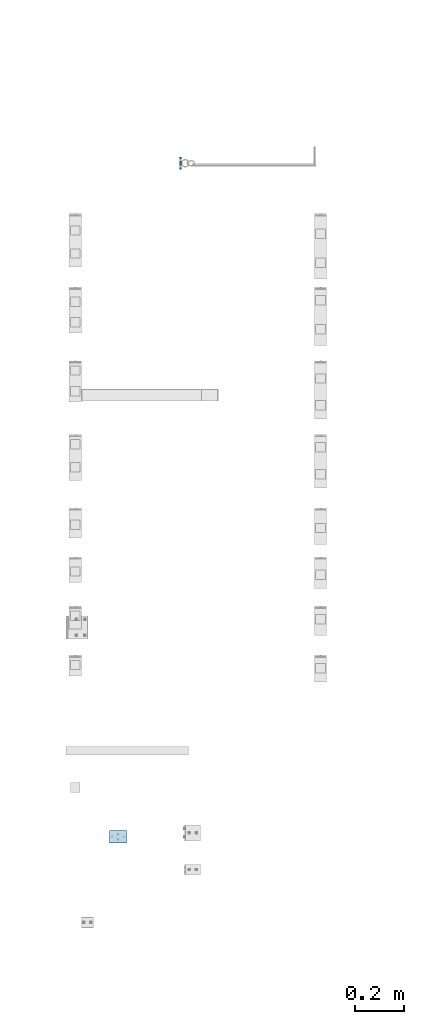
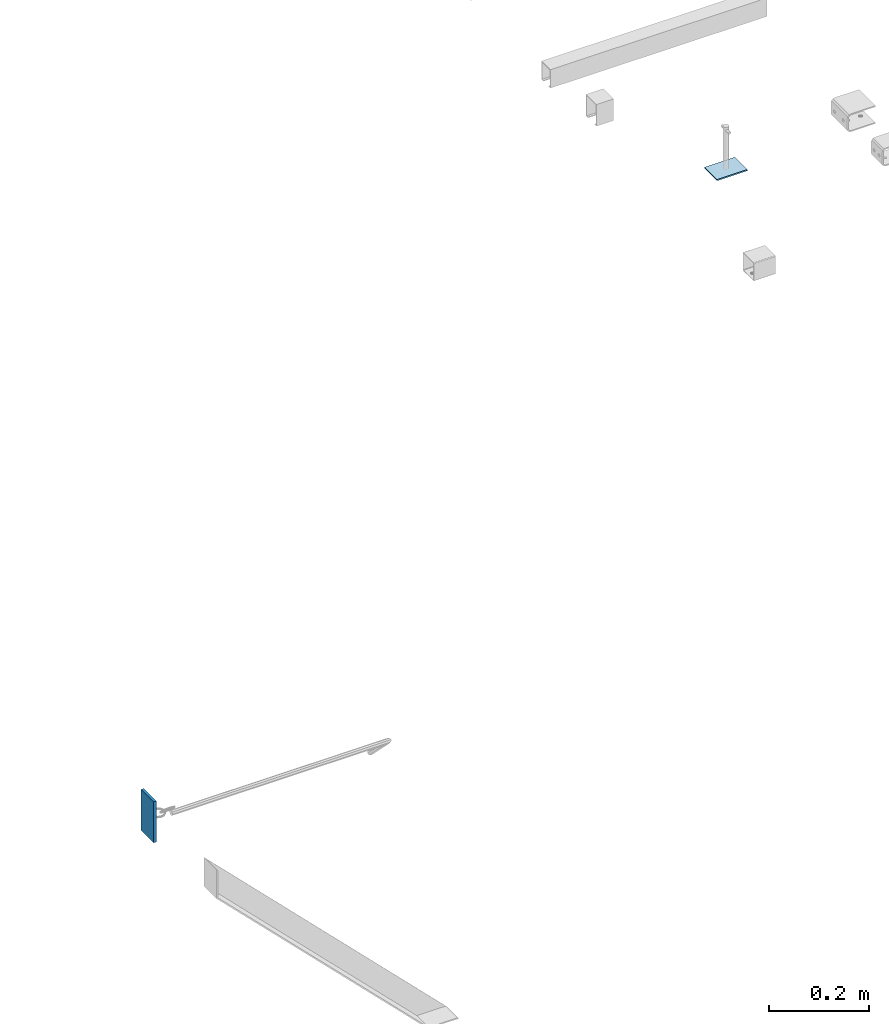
# One storey, part 12 of 91: 2 plates, 2 elements without a shape of their own.
"""IFC2X3 building model written with IfcOpenShell, lengths in millimetres."""

from ifc_helpers import new_model, si_unit, frame, origin_with_axes, place, context, subcontext, project, spatial, polyline, outline, extrude, material, type_object, element, aggregate, save


model = new_model("IFC2X3")

# Units and contexts
model_context = context("Model", 3, precision=1e-05, world=origin_with_axes())
body_context = subcontext(model_context, "Body", "Model", "MODEL_VIEW")
ifc_project = project(units=[si_unit("LENGTHUNIT", "METRE", prefix="MILLI"), si_unit("AREAUNIT", "SQUARE_METRE"), si_unit("VOLUMEUNIT", "CUBIC_METRE"), si_unit("MASSUNIT", "GRAM", prefix="KILO"), si_unit("TIMEUNIT", "SECOND"), si_unit("PLANEANGLEUNIT", "RADIAN"), si_unit("SOLIDANGLEUNIT", "STERADIAN"), si_unit("THERMODYNAMICTEMPERATUREUNIT", "DEGREE_CELSIUS"), si_unit("LUMINOUSINTENSITYUNIT", "LUMEN")], contexts=[model_context])

# Site, building, storey
site_placement = place(None, origin_with_axes())
site = spatial("IfcSite", under=ifc_project, at=site_placement, Name="Undefined", CompositionType="ELEMENT")
building_placement = place(site_placement, origin_with_axes())
building = spatial("IfcBuilding", under=site, at=building_placement, Name="Undefined", CompositionType="ELEMENT")
storey_placement = place(building_placement, origin_with_axes())
storey = spatial("IfcBuildingStorey", under=building, at=storey_placement, Name="Undefined", CompositionType="ELEMENT", Elevation=0.0)

# Assembly, plate
assembly_1_placement = place(storey_placement, origin_with_axes())
assembly_1 = element("IfcElementAssembly", 1, at=assembly_1_placement, inside=storey, Name="PLATE", AssemblyPlace="NOTDEFINED", PredefinedType="RIGID_FRAME")
ifc_material = material(Name="STEEL/250")
plate_type_1 = type_object("IfcPlateType", Name="PLT3*50", PredefinedType="NOTDEFINED")
plate_1_placement = place(assembly_1_placement, frame((-116655.84, 90037.15, 3324.5), z_axis=(0.0, 0.0, 1.0), x_axis=(0.0, -1.0, 0.0)))
plate_1 = element("IfcPlate", 2, at=plate_1_placement, type_object=plate_type_1, material=ifc_material, Name="PLATE", ObjectType="PLT3*50", context=body_context, shape_type="SweptSolid", body=[
    extrude(outline(polyline([(0.0, 0.0), (50.0, 0.0), (50.0, 70.0), (0.0, 70.0), (0.0, 0.0)])), frame((0.0, 0.0, -1.5), z_axis=(0.0, 0.0, 1.0), x_axis=(1.0, 0.0, 0.0)), (0.0, 0.0, 1.0), 3.0),
])
aggregate(assembly_1, [plate_1])

assembly_2_placement = place(storey_placement, origin_with_axes())
assembly_2 = element("IfcElementAssembly", 3, at=assembly_2_placement, inside=storey, Name="PLATE", AssemblyPlace="NOTDEFINED", PredefinedType="RIGID_FRAME")
plate_type_2 = type_object("IfcPlateType", Name="FL6*50", PredefinedType="NOTDEFINED")
plate_2_placement = place(assembly_2_placement, frame((-116367.352606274, 92782.0282218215, -56.0), z_axis=(1.0, 0.0, 0.0), x_axis=(0.0, 0.0, 1.0)))
plate_2 = element("IfcPlate", 4, at=plate_2_placement, type_object=plate_type_2, material=ifc_material, Name="PLATE", ObjectType="FL6*50", context=body_context, shape_type="SweptSolid", body=[
    extrude(outline(polyline([(0.0, 0.0), (100.0, 0.0), (100.0, 50.0), (0.0, 50.0), (0.0, 0.0)])), frame((0.0, 0.0, -3.0), z_axis=(0.0, 0.0, 1.0), x_axis=(1.0, 0.0, 0.0)), (0.0, 0.0, 1.0), 6.0),
])
aggregate(assembly_2, [plate_2])

save(model, "model.ifc")
